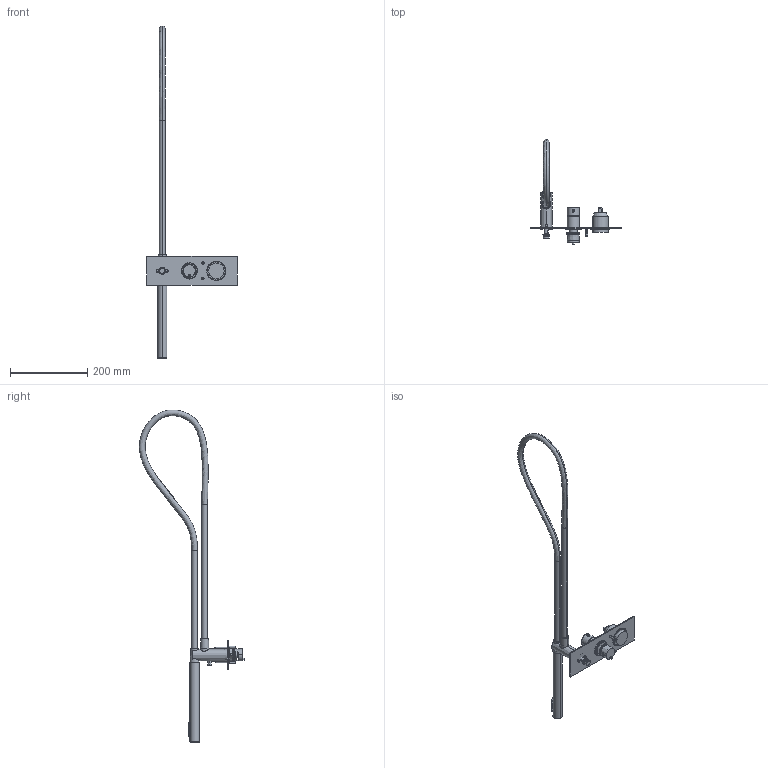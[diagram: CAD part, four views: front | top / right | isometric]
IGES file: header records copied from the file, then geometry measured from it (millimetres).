
Start section:  PTC IGES file: 69529sv221_sw0001.igs
Global section: file name: 69529sv221_sw0001.igs; native system: Creo Parametric by PTC Inc.; preprocessor: 2022014; author: volponeff; organization: Unknown; date: 20230606.100238; units: millimetre
Bounding box: 235 x 272.41 x 859.65 mm (x, y, z)
Surface area: 165499.4 mm2 (no closed solid volume)
Topology: 0 solids, 0 shells, 353 faces, 1568 edges, 1566 vertices
Faces by surface type: revolution 248, bspline 105
